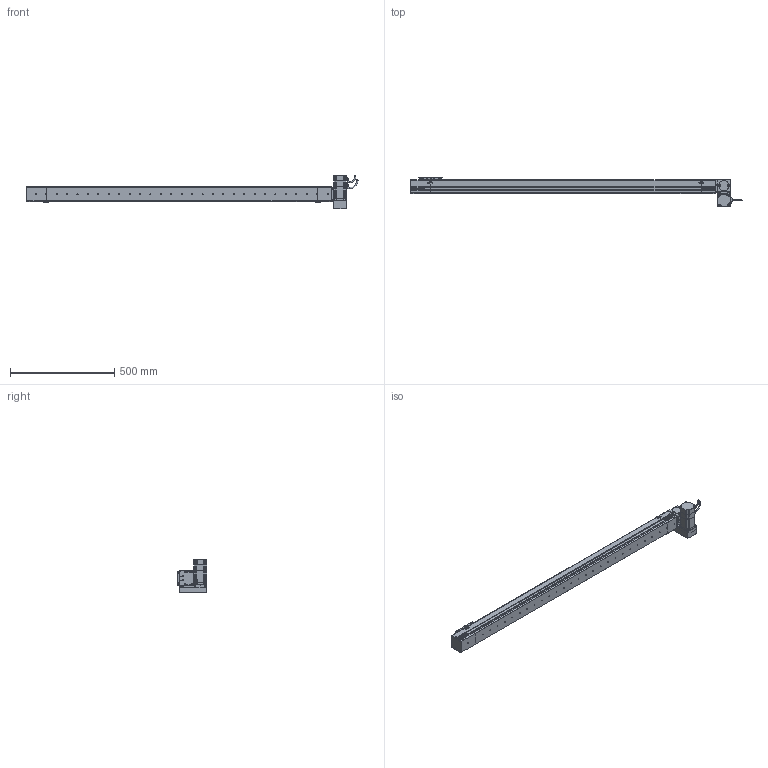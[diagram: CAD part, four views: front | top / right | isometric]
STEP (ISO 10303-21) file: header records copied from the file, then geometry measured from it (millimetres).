
FILE_DESCRIPTION (( 'STEP AP214' ), '1' );
FILE_NAME ('S07 CBN RU S1300.STEP', '2010-06-29T10:45:37', ( 'Conseil Régional Haute-Normandie' ), ( 'Conseil Régional Haute-Normandie' ), 'SwSTEP 2.0', 'SolidWorks 2010', '' );
FILE_SCHEMA (( 'AUTOMOTIVE_DESIGN' ));
Length unit declared in the file: millimetre
Products named in the file (31): Corp RU_Default; Chariot S07_Default; Plaque de bout RU_Default; support chariot_Default; Couvercle RU_Default; chariot_Default; vis M5 L15_Default; plaque de serrage Tail_Default; Plaque de bout Tail_Default; Couvercle Tail_Default; Corp Tail_Default; plaque de serrage RU_Default; Rondelle de Serrage RU_Default; Tail S07 Tail_Default; Couvercle S07 S1300_Default; Corp S07 S1300_Default; Cache Support Moteur RU_Default; Support Moteur RU_Default; Conecteur 60BLDC_Default; P1_Default; 60BLDC90A-640_Default; P2 90A_Default; VisM3_Default; Conecteur2 60BLDC_Default; Axe 60BLDC_Default; P4_Default; P3 90A_Default; vis M5 L8_Default; Head RU_Default; S07 CBN RU S1300
Assembly tree (71 placements, depth 4):
  S07 CBN RU S1300
    Chariot S07_Default
      vis M5 L8_Default  x8
      support chariot_Default
      chariot_Default
    Corp S07 S1300_Default
      Corp S07 S1300_Default
      Couvercle S07 S1300_Default
    Head RU_Default
      plaque de serrage RU_Default
      vis M5 L15_Default  x16
      Couvercle RU_Default
      Cache Support Moteur RU_Default
      Support Moteur RU_Default
      Rondelle de Serrage RU_Default  x3
      60BLDC90A-640_Default
        VisM3_Default  x12
        Axe 60BLDC_Default
        Conecteur 60BLDC_Default
        Conecteur2 60BLDC_Default
        P2 90A_Default
        P4_Default
        P3 90A_Default
        P1_Default
      Plaque de bout RU_Default
      Corp RU_Default
    Tail S07 Tail_Default
      vis M5 L15_Default  x6
      Plaque de bout Tail_Default
      Couvercle Tail_Default
      plaque de serrage Tail_Default
      Corp Tail_Default
Bounding box: 1593.2 x 142 x 162 mm (x, y, z)
Volume: 7505102.4 mm3; surface area: 887967.2 mm2
Topology: 108 solids, 108 shells, 3928 faces, 9662 edges, 6220 vertices
Faces by surface type: plane 2262, bspline 756, cylinder 699, torus 112, cone 95, sphere 4
Entity records: 154313 total; most frequent: CARTESIAN_POINT 79747, ORIENTED_EDGE 14844, DIRECTION 11155, EDGE_CURVE 7422, VERTEX_POINT 4905, VECTOR 4797, LINE 4797, EDGE_LOOP 3197
